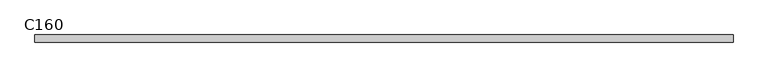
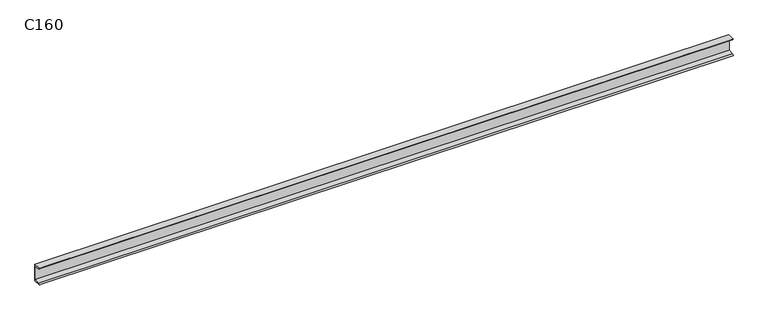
"""IFC4 building model written with IfcOpenShell, lengths in millimetres: beam geometry, RPLN C - Ceowniki normalne : C160."""

import ifcopenshell
import ifcopenshell.guid

model = None  # the IFC model being written
_history = None  # IfcOwnerHistory: only IFC2X3 demands one
_inside = {}  # id of a spatial element -> (the spatial element, [elements in it])
_under = {}  # id of a project, library or spatial element -> (it, [spatial elements below it])
_declared = {}  # id of a project -> (the project, [libraries it declares])
_typed = {}  # id of a type object -> (the type object, [elements of that type])
_made_of = {}  # id of a material, layer set ... -> (it, [elements and type objects made of it])


def new_model(schema):
    """Start an empty IFC model of exactly this schema.

    Asked for "IFC4X3", IfcOpenShell would pick the latest addendum, in which some entities
    have other attributes; the version numbers below select the first issue.
    IFC2X3 requires an IfcOwnerHistory on every rooted entity: one is made here for all.
    """
    global model, _history
    if schema == "IFC4X3":
        model = ifcopenshell.file(schema_version=(4, 3, 0, 0))
    else:
        model = ifcopenshell.file(schema=schema)
    _inside.clear()
    _under.clear()
    _declared.clear()
    _typed.clear()
    _made_of.clear()
    _history = None
    if model.schema == "IFC2X3":
        org = make("IfcOrganization", Name="unknown")
        user = make(
            "IfcPersonAndOrganization",
            ThePerson=make("IfcPerson", FamilyName="unknown"),
            TheOrganization=org,
        )
        app = make(
            "IfcApplication",
            ApplicationDeveloper=org,
            Version="unknown",
            ApplicationFullName="unknown",
            ApplicationIdentifier="unknown",
        )
        _history = make(
            "IfcOwnerHistory",
            OwningUser=user,
            OwningApplication=app,
            ChangeAction="ADDED",
            CreationDate=0,
        )
    return model


def make(cls, **values):
    """One entity of the class cls with the attributes given. An attribute that is None is left unset."""
    return model.create_entity(
        cls, **{name: value for name, value in values.items() if value is not None}
    )


def rooted(cls, **values):
    """An entity with a GlobalId (a new one), such as an element, a storey or a relation."""
    return make(cls, GlobalId=ifcopenshell.guid.new(), OwnerHistory=_history, **values)


def si_unit(unit_type, name, prefix=None):
    """IfcSIUnit, for example si_unit("LENGTHUNIT", "METRE", prefix="MILLI")."""
    return make("IfcSIUnit", UnitType=unit_type, Prefix=prefix, Name=name)


def assignment(units):
    """IfcUnitAssignment: the units of a project."""
    return None if units is None else make("IfcUnitAssignment", Units=units)


def point(xyz):
    """IfcCartesianPoint."""
    return None if xyz is None else make("IfcCartesianPoint", Coordinates=xyz)


def direction(xyz):
    """IfcDirection."""
    return None if xyz is None else make("IfcDirection", DirectionRatios=xyz)


def frame(location, z_axis=None, x_axis=None):
    """IfcAxis2Placement3D, a coordinate frame: its origin and axes. An axis left out is left unset."""
    return make(
        "IfcAxis2Placement3D",
        Location=point(location),
        Axis=direction(z_axis),
        RefDirection=direction(x_axis),
    )


def frame_2d(location, x_axis=None):
    """IfcAxis2Placement2D, a coordinate frame in the plane: its origin and x axis."""
    return make(
        "IfcAxis2Placement2D", Location=point(location), RefDirection=direction(x_axis)
    )


def origin():
    """The frame at (0, 0, 0) with its axes left unset."""
    return frame((0.0, 0.0, 0.0))


def place(relative_to, where):
    """IfcLocalPlacement: puts the frame where relative to a parent placement (None: the world)."""
    return make(
        "IfcLocalPlacement", PlacementRelTo=relative_to, RelativePlacement=where
    )


def context(
    kind, dimensions, precision=None, world=None, true_north=None, identifier=None
):
    """IfcGeometricRepresentationContext, for example the 3D "Model" context."""
    return make(
        "IfcGeometricRepresentationContext",
        ContextIdentifier=identifier,
        ContextType=kind,
        CoordinateSpaceDimension=dimensions,
        Precision=precision,
        WorldCoordinateSystem=world,
        TrueNorth=true_north,
    )


def project(units=None, contexts=None):
    """IfcProject with its units and contexts."""
    return rooted(
        "IfcProject",
        Name="project",
        RepresentationContexts=contexts,
        UnitsInContext=assignment(units),
    )


def spatial(cls, under=None, at=None, **own):
    """A site, building, storey or space (cls), placed at a placement, below another one or the project."""
    s = rooted(cls, ObjectPlacement=at, **own)
    if under is not None:
        _under.setdefault(under.id(), (under, []))[1].append(s)
    return s


def polyline(points):
    """IfcPolyline through the points."""
    return make("IfcPolyline", Points=[point(p) for p in points])


def circle_curve(where, radius):
    """IfcCircle in the frame where."""
    return make("IfcCircle", Position=where, Radius=radius)


def trimmed(basis, trim1, trim2, sense, master):
    """IfcTrimmedCurve: the piece of a basis curve between two trims."""
    return make(
        "IfcTrimmedCurve",
        BasisCurve=basis,
        Trim1=trim1,
        Trim2=trim2,
        SenseAgreement=sense,
        MasterRepresentation=master,
    )


def segment(curve, same_sense, transition):
    """IfcCompositeCurveSegment."""
    return make(
        "IfcCompositeCurveSegment",
        Transition=transition,
        SameSense=same_sense,
        ParentCurve=curve,
    )


def composite_curve(segments, self_intersect=None):
    """IfcCompositeCurve: segments joined end to end."""
    return make("IfcCompositeCurve", Segments=segments, SelfIntersect=self_intersect)


def outline(outer, holes=None, kind="AREA"):
    """IfcArbitraryClosedProfileDef: a profile drawn as a closed curve; with holes, ...WithVoids."""
    if holes is None:
        return make("IfcArbitraryClosedProfileDef", ProfileType=kind, OuterCurve=outer)
    return make(
        "IfcArbitraryProfileDefWithVoids",
        ProfileType=kind,
        OuterCurve=outer,
        InnerCurves=holes,
    )


def extrude(swept, where, along, depth):
    """IfcExtrudedAreaSolid: the profile swept, set in the frame where, extruded along a direction by depth."""
    return make(
        "IfcExtrudedAreaSolid",
        SweptArea=swept,
        Position=where,
        ExtrudedDirection=direction(along),
        Depth=depth,
    )


def shape(context_of_items, identifier, shape_type, items):
    """IfcShapeRepresentation: the items that make up one representation, for example the "Body"."""
    return make(
        "IfcShapeRepresentation",
        ContextOfItems=context_of_items,
        RepresentationIdentifier=identifier,
        RepresentationType=shape_type,
        Items=items,
    )


def source(mapping_origin, context_of_items, identifier, shape_type, items):
    """IfcRepresentationMap: a shape defined once, which mapped items show again and again."""
    return make(
        "IfcRepresentationMap",
        MappingOrigin=mapping_origin,
        MappedRepresentation=shape(context_of_items, identifier, shape_type, items),
    )


def transform(
    local_origin,
    x_axis=None,
    y_axis=None,
    z_axis=None,
    scale=None,
    scale2=None,
    scale3=None,
    uniform=True,
):
    """IfcCartesianTransformationOperator3D, or its non-uniform kind. x_axis, y_axis, z_axis: its Axis1, 2, 3."""
    if uniform:
        return make(
            "IfcCartesianTransformationOperator3D",
            Axis1=direction(x_axis),
            Axis2=direction(y_axis),
            LocalOrigin=point(local_origin),
            Scale=scale,
            Axis3=direction(z_axis),
        )
    return make(
        "IfcCartesianTransformationOperator3DnonUniform",
        Axis1=direction(x_axis),
        Axis2=direction(y_axis),
        LocalOrigin=point(local_origin),
        Scale=scale,
        Axis3=direction(z_axis),
        Scale2=scale2,
        Scale3=scale3,
    )


def mapped(mapping_source, mapping_target):
    """IfcMappedItem: shows the shape of a source again, moved by a transform."""
    return make(
        "IfcMappedItem", MappingSource=mapping_source, MappingTarget=mapping_target
    )


def made_of(thing, what):
    """Note that an element or type object is made of a material, layer set ...; save() writes the relation."""
    if what is not None:
        _made_of.setdefault(what.id(), (what, []))[1].append(thing)
    return thing


def element(
    cls,
    number,
    at=None,
    inside=None,
    cuts=None,
    type_object=None,
    material=None,
    context=None,
    identifier="Body",
    shape_type=None,
    held_by="IfcProductDefinitionShape",
    body=None,
    shapes=None,
    **own,
):
    """One element of the class cls, such as IfcWall. Its Tag is "e" and its number.

    at: its placement. inside: the storey or other place that contains it. cuts: it is an
    opening in that element (IfcRelVoidsElement). A single representation is given by context,
    identifier, shape_type and body (its items); several are given by shapes. held_by: the class
    of the entity that holds the representations. save() writes the other relations.
    """
    e = rooted(cls, Tag="e%d" % number, ObjectPlacement=at, **own)
    if body is not None:
        shapes = [shape(context, identifier, shape_type, body)]
    if shapes is not None:
        e.Representation = make(held_by, Representations=shapes)
    if inside is not None:
        _inside.setdefault(inside.id(), (inside, []))[1].append(e)
    if cuts is not None:
        rooted(
            "IfcRelVoidsElement", RelatingBuildingElement=cuts, RelatedOpeningElement=e
        )
    if type_object is not None:
        _typed.setdefault(type_object.id(), (type_object, []))[1].append(e)
    return made_of(e, material)


def aggregate(whole, parts):
    """IfcRelAggregates: a whole, such as a stair, and the parts it consists of."""
    return rooted("IfcRelAggregates", RelatingObject=whole, RelatedObjects=parts)


def save(model, path):
    """Write the relations noted so far, then the file.

    IfcRelAggregates (storeys below a building ...), IfcRelContainedInSpatialStructure (elements
    in a storey), IfcRelDefinesByType, IfcRelAssociatesMaterial and IfcRelDeclares: one each for
    every whole, place, type object, material and project.
    """
    for whole, parts in _under.values():
        aggregate(whole, parts)
    for where, things in _inside.values():
        rooted(
            "IfcRelContainedInSpatialStructure",
            RelatedElements=things,
            RelatingStructure=where,
        )
    for kind, things in _typed.values():
        rooted("IfcRelDefinesByType", RelatedObjects=things, RelatingType=kind)
    for what, things in _made_of.values():
        rooted("IfcRelAssociatesMaterial", RelatedObjects=things, RelatingMaterial=what)
    for by, libraries in _declared.values():
        rooted("IfcRelDeclares", RelatingContext=by, RelatedDefinitions=libraries)
    model.write(path)


def c160_f2125c67(model_context):
    return source(origin(), model_context, "Body", "SweptSolid", [
        extrude(outline(composite_curve([segment(polyline([(18.4, 80.0), (18.4, -80.0), (-46.6, -80.0)]), True, "CONTINUOUS"), segment(trimmed(circle_curve(frame_2d((-36.1, -80.0)), 10.5), [point((-46.6, -80.0))], [point((-36.1, -69.5))], False, "CARTESIAN"), True, "CONTINUOUS"), segment(polyline([(-36.1, -69.5), (10.9, -62.0559313), (10.9, 62.0559313), (-36.1, 69.5)]), True, "CONTINUOUS"), segment(trimmed(circle_curve(frame_2d((-36.1, 80.0)), 10.5), [point((-36.1, 69.5))], [point((-46.6, 80.0))], False, "CARTESIAN"), True, "CONTINUOUS"), segment(polyline([(-46.6, 80.0), (18.4, 80.0)]), True, "CONTINUOUS")], self_intersect=False)), frame((-3172.629097, 0.0, 0.0), z_axis=(1.0, 0.0, 0.0), x_axis=(0.0, 1.0, 0.0)), (0.0, 0.0, 1.0), 6322.798655),
    ])


if __name__ == "__main__":
    model = new_model("IFC4")
    model_context = context("Model", 3, world=origin())
    ifc_project = project(units=[si_unit("LENGTHUNIT", "METRE", prefix="MILLI")], contexts=[model_context])
    site = spatial("IfcSite", under=ifc_project)
    building = spatial("IfcBuilding", under=site)
    placement = place(None, origin())
    c160_shape = c160_f2125c67(model_context)
    element("IfcBeam", 1, ObjectType="RPLN C - Ceowniki normalne : C160", at=placement, inside=building, context=model_context, shape_type="MappedRepresentation", body=[
        mapped(c160_shape, transform((0.0, 0.0, 0.0), x_axis=(1.0, 0.0, 0.0), y_axis=(0.0, 1.0, 0.0), z_axis=(0.0, 0.0, 1.0))),
    ])
    save(model, "model.ifc")
